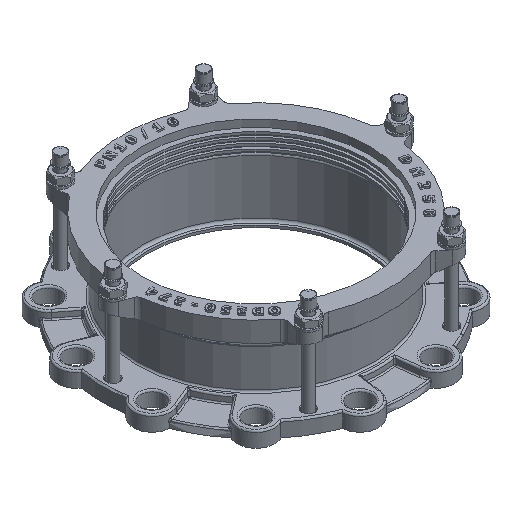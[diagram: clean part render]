
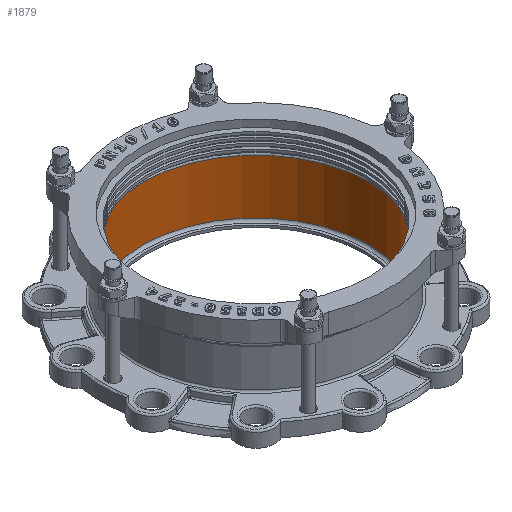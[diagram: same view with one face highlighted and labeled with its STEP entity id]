
A CAD part, isometric view. The second image highlights one B-rep face of the part: STEP entity #1879.
In plain terms, the highlighted cylindrical face has radius 137 mm (diameter 274 mm), a full revolution.
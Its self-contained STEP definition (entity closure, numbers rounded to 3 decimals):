
#1879=ADVANCED_FACE('',(#12618,#12620),#12622,.F.);
#12618=FACE_OUTER_BOUND('',#12619,.T.);
#12619=EDGE_LOOP('',(#18618));
#12620=FACE_OUTER_BOUND('',#12621,.T.);
#12621=EDGE_LOOP('',(#18619));
#12622=CYLINDRICAL_SURFACE('',#12623,137.);
#12623=AXIS2_PLACEMENT_3D('',#12624,#12625,#12626);
#12624=CARTESIAN_POINT('',(0.,0.,3.));
#12625=DIRECTION('',(0.,0.,1.));
#12626=DIRECTION('',(-1.,0.,0.));
#18618=ORIENTED_EDGE('',*,*,#23409,.F.);
#18619=ORIENTED_EDGE('',*,*,#23410,.T.);
#23409=EDGE_CURVE('',#26471,#26471,#26472,.T.);
#23410=EDGE_CURVE('',#26473,#26473,#26474,.F.);
#26471=VERTEX_POINT('',#37595);
#26472=CIRCLE('',#37596,137.);
#26473=VERTEX_POINT('',#37600);
#26474=CIRCLE('',#37601,137.);
#37595=CARTESIAN_POINT('',(0.,137.,71.5));
#37596=AXIS2_PLACEMENT_3D('',#37597,#37598,#37599);
#37597=CARTESIAN_POINT('',(0.,0.,71.5));
#37598=DIRECTION('',(0.,0.,-1.));
#37599=DIRECTION('',(0.,1.,0.));
#37600=CARTESIAN_POINT('',(0.,137.,6.));
#37601=AXIS2_PLACEMENT_3D('',#37602,#37603,#37604);
#37602=CARTESIAN_POINT('',(0.,0.,6.));
#37603=DIRECTION('',(0.,0.,1.));
#37604=DIRECTION('',(0.,1.,0.));
